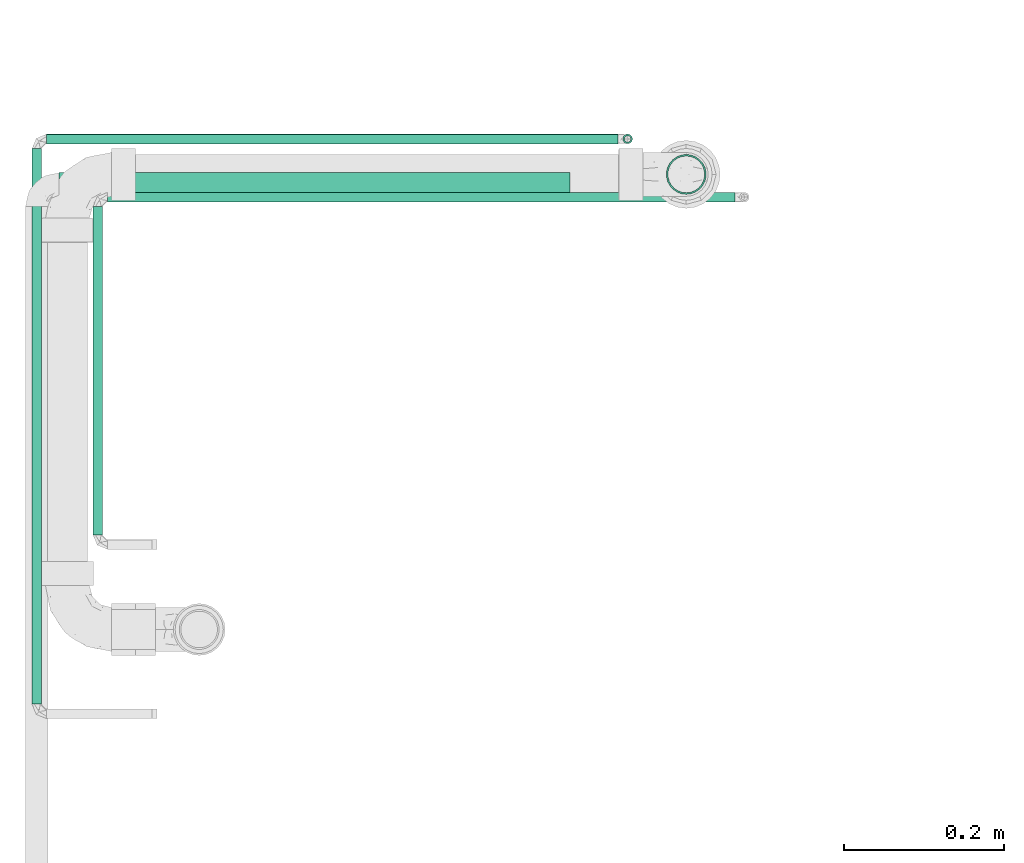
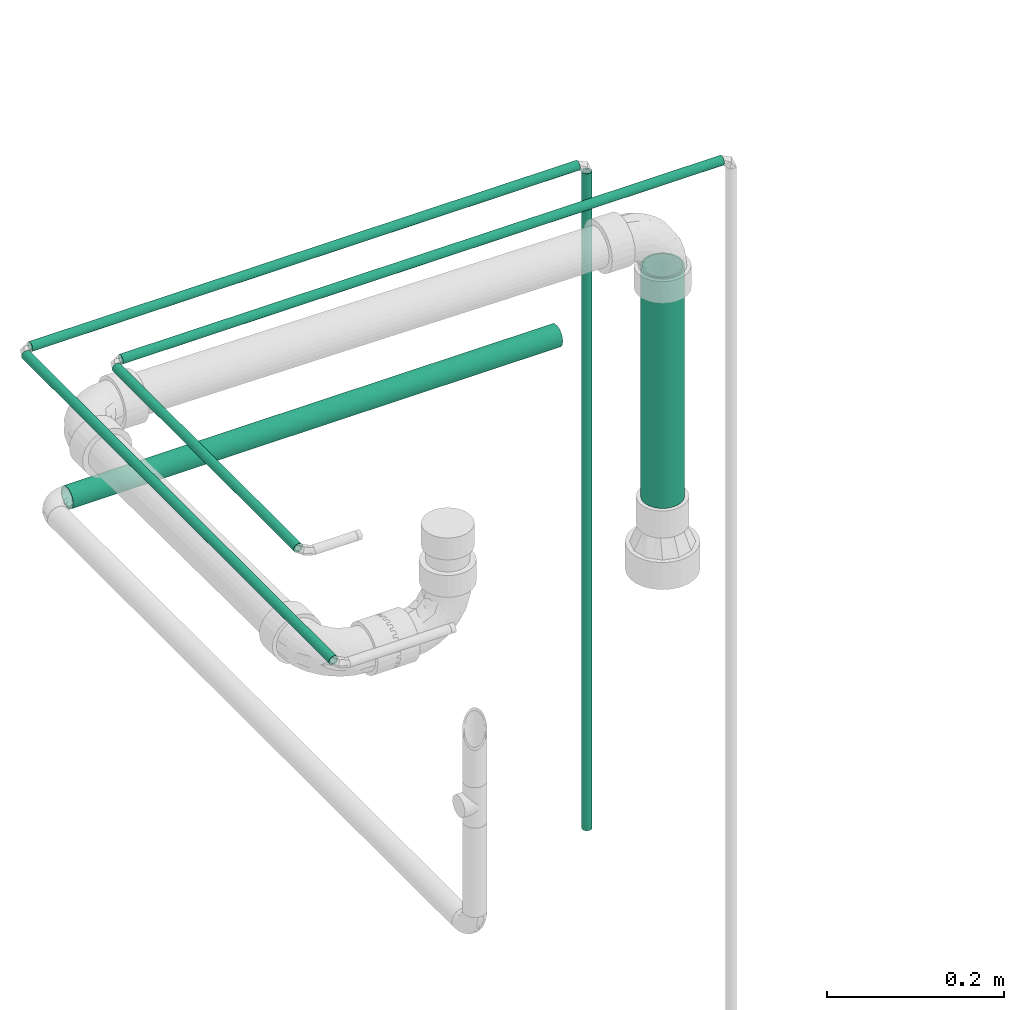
# One storey, part 34 of 108: 7 flow segments.
"""IFC2X3 building model written with IfcOpenShell, lengths in millimetres."""

from ifc_helpers import new_model, entity, si_unit, converted_unit, derived_unit, direction, frame, origin_with_axes, origin_2d_with_axis, place, context, subcontext, project, spatial, hollow_circle, extrude, source, transform, mapped, type_object, element, save


model = new_model("IFC2X3")

# Units and contexts
model_context = context("Model", 3, precision=0.01, world=frame((0.0, 4.29681676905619e-09, 0.0)), true_north=direction((4.01073788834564e-13, 1.0)))
plan_context = context("Plan", 3, precision=0.01, world=frame((0.0, 4.29681676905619e-09, 0.0)), true_north=direction((4.01073788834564e-13, 1.0)))
body_context = subcontext(model_context, "Body", "Model", "MODEL_VIEW")
ifc_project = project(units=[converted_unit("PLANEANGLEUNIT", "DEGREE", entity("IfcPositiveLengthMeasure", 0.0174532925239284), si_unit("PLANEANGLEUNIT", "RADIAN"), dimensions=[0, 0, 0, 0, 0, 0, 0]), si_unit("AREAUNIT", "SQUARE_METRE"), si_unit("LENGTHUNIT", "METRE", prefix="MILLI"), si_unit("MASSUNIT", "GRAM", prefix="KILO"), si_unit("POWERUNIT", "WATT"), si_unit("PRESSUREUNIT", "PASCAL", prefix="KILO"), si_unit("FORCEUNIT", "NEWTON", prefix="KILO"), si_unit("ELECTRICVOLTAGEUNIT", "VOLT"), si_unit("ELECTRICCURRENTUNIT", "AMPERE"), si_unit("THERMODYNAMICTEMPERATUREUNIT", "DEGREE_CELSIUS"), si_unit("TIMEUNIT", "SECOND"), si_unit("VOLUMEUNIT", "CUBIC_METRE"), derived_unit("LINEARVELOCITYUNIT", [(si_unit("LENGTHUNIT", "METRE"), 1), (si_unit("TIMEUNIT", "SECOND"), -1)]), derived_unit("VOLUMETRICFLOWRATEUNIT", [(si_unit("VOLUMEUNIT", "CUBIC_METRE"), 1), (si_unit("TIMEUNIT", "SECOND"), -1)]), derived_unit("THERMALTRANSMITTANCEUNIT", [(si_unit("POWERUNIT", "WATT"), 1), (si_unit("THERMODYNAMICTEMPERATUREUNIT", "KELVIN"), -1), (si_unit("AREAUNIT", "SQUARE_METRE"), -1)]), derived_unit("SOUNDPRESSUREUNIT", [(si_unit("PRESSUREUNIT", "PASCAL"), 1)])], contexts=[model_context, plan_context])

# Site, building, storey
site_placement = place(None, frame((0.0, -4.29681676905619e-09, 0.0), z_axis=(0.0, 0.0, 1.0), x_axis=(1.0, 0.0, 0.0)))
site = spatial("IfcSite", under=ifc_project, at=site_placement, CompositionType="ELEMENT")
building_placement = place(site_placement, frame((0.0, 4.29681676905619e-09, 0.0), z_axis=(0.0, 0.0, 1.0), x_axis=(1.0, 0.0, 0.0)))
building = spatial("IfcBuilding", under=site, at=building_placement, Name="mc-building", CompositionType="ELEMENT")
storey_placement = place(building_placement, frame((0.0, 0.0, 210200.0), z_axis=(0.0, 0.0, 1.0), x_axis=(1.0, 0.0, 0.0)))
storey = spatial("IfcBuildingStorey", under=building, at=storey_placement, Name="Nivå F - 0,7 m", CompositionType="ELEMENT", Elevation=210200.0)

# Flow segments
pipe_segment_type_1 = type_object("IfcPipeSegmentType", Name="Kobberrør", PredefinedType="RIGIDSEGMENT")
shared_shape_1 = source(origin_with_axes(), body_context, "Body", "SweptSolid", [
    extrude(hollow_circle(Radius=6.0, WallThickness=2.0, at=origin_2d_with_axis()), frame((0.0, 0.0, 0.0), z_axis=(1.0, 0.0, 0.0), x_axis=(0.0, 1.0, 0.0)), (0.0, 0.0, 1.0), 786.0),
])
flow_segment_1_placement = place(storey_placement, frame((321934.1022, 462097.03657, 570.0), z_axis=(0.0, 0.0, 1.0), x_axis=(1.0, 0.0, 0.0)))
element("IfcFlowSegment", 1, at=flow_segment_1_placement, inside=storey, type_object=pipe_segment_type_1, Name="Kobberrør", context=body_context, shape_type="MappedRepresentation", body=[
    mapped(shared_shape_1, transform((0.0, 0.0, 0.0), scale=1.0)),
])
pipe_segment_type_2 = type_object("IfcPipeSegmentType", Name="PP avløpsrør", PredefinedType="RIGIDSEGMENT")
shared_shape_2 = source(origin_with_axes(), body_context, "Body", "SweptSolid", [
    extrude(hollow_circle(Radius=25.0, WallThickness=2.0, at=origin_2d_with_axis()), frame((0.0, 0.0, 0.0), z_axis=(1.0, 0.0, 0.0), x_axis=(0.0, 1.0, 0.0)), (0.0, 0.0, 1.0), 318.9),
])
flow_segment_2_placement = place(storey_placement, frame((322659.16821, 462125.55139, 428.897350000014), z_axis=(-1.0, 0.0, 0.0), x_axis=(0.0, 0.0, -1.0)))
element("IfcFlowSegment", 2, at=flow_segment_2_placement, inside=storey, type_object=pipe_segment_type_2, Name="PP avløpsrør", context=body_context, shape_type="MappedRepresentation", body=[
    mapped(shared_shape_2, transform((0.0, 0.0, 0.0), scale=1.0)),
])
shared_shape_3 = source(origin_with_axes(), body_context, "Body", "SweptSolid", [
    extrude(hollow_circle(Radius=6.0, WallThickness=2.0, at=origin_2d_with_axis()), frame((0.0, 0.0, 0.0), z_axis=(1.0, 0.0, 0.0), x_axis=(0.0, 1.0, 0.0)), (0.0, 0.0, 1.0), 696.0),
])
flow_segment_3_placement = place(storey_placement, frame((321845.77944, 461461.93583, 570.000640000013), z_axis=(0.0, -3.3999999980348e-05, 0.999999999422), x_axis=(0.0, 0.999999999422, 3.3999999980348e-05)))
element("IfcFlowSegment", 3, at=flow_segment_3_placement, inside=storey, type_object=pipe_segment_type_1, Name="Kobberrør", context=body_context, shape_type="MappedRepresentation", body=[
    mapped(shared_shape_3, transform((0.0, 0.0, 0.0), scale=1.0)),
])
shared_shape_4 = source(origin_with_axes(), body_context, "Body", "SweptSolid", [
    extrude(hollow_circle(Radius=6.0, WallThickness=2.0, at=origin_2d_with_axis()), frame((0.0, 0.0, 0.0), z_axis=(1.0, 0.0, 0.0), x_axis=(0.0, 1.0, 0.0)), (0.0, 0.0, 1.0), 716.0),
])
flow_segment_4_placement = place(storey_placement, frame((321857.77944, 462169.93582, 570.019479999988), z_axis=(0.0, 0.0, 1.0), x_axis=(1.0, 0.0, 0.0)))
element("IfcFlowSegment", 4, at=flow_segment_4_placement, inside=storey, type_object=pipe_segment_type_1, Name="Kobberrør", context=body_context, shape_type="MappedRepresentation", body=[
    mapped(shared_shape_4, transform((0.0, 0.0, 0.0), scale=1.0)),
])
shared_shape_5 = source(origin_with_axes(), body_context, "Body", "SweptSolid", [
    extrude(hollow_circle(Radius=6.0, WallThickness=2.0, at=origin_2d_with_axis()), frame((0.0, 0.0, 0.0), z_axis=(1.0, 0.0, 0.0), x_axis=(0.0, 1.0, 0.0)), (0.0, 0.0, 1.0), 411.0),
])
flow_segment_5_placement = place(storey_placement, frame((321922.1022, 461674.03657, 570.0), z_axis=(0.0, 0.0, 1.0), x_axis=(0.0, 1.0, 0.0)))
element("IfcFlowSegment", 5, at=flow_segment_5_placement, inside=storey, type_object=pipe_segment_type_1, Name="Kobberrør", context=body_context, shape_type="MappedRepresentation", body=[
    mapped(shared_shape_5, transform((0.0, 0.0, 0.0), scale=1.0)),
])
shared_shape_6 = source(origin_with_axes(), body_context, "Body", "SweptSolid", [
    extrude(hollow_circle(Radius=14.0, WallThickness=2.0, at=origin_2d_with_axis()), frame((0.0, 0.0, 0.0), z_axis=(1.0, 0.0, 0.0), x_axis=(0.0, 1.0, 0.0)), (0.0, 0.0, 1.0), 640.1),
])
flow_segment_6_placement = place(storey_placement, frame((322513.76693, 462113.63355, 390.282059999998), z_axis=(0.0, 0.0, 1.0), x_axis=(-1.0, 0.0, 0.0)))
element("IfcFlowSegment", 6, at=flow_segment_6_placement, inside=storey, type_object=pipe_segment_type_1, Name="Kobberrør", context=body_context, shape_type="MappedRepresentation", body=[
    mapped(shared_shape_6, transform((0.0, 0.0, 0.0), scale=1.0)),
])
shared_shape_7 = source(origin_with_axes(), body_context, "Body", "SweptSolid", [
    extrude(hollow_circle(Radius=6.0, WallThickness=2.0, at=origin_2d_with_axis()), frame((0.0, 0.0, 0.0), z_axis=(1.0, 0.0, 0.0), x_axis=(0.0, 1.0, 0.0)), (0.0, 0.0, 1.0), 908.0),
])
flow_segment_7_placement = place(storey_placement, frame((322585.77944, 462169.93582, 558.019479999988), z_axis=(1.0, 0.0, 0.0), x_axis=(0.0, 0.0, -1.0)))
element("IfcFlowSegment", 7, at=flow_segment_7_placement, inside=storey, type_object=pipe_segment_type_1, Name="Kobberrør", context=body_context, shape_type="MappedRepresentation", body=[
    mapped(shared_shape_7, transform((0.0, 0.0, 0.0), scale=1.0)),
])

save(model, "model.ifc")
